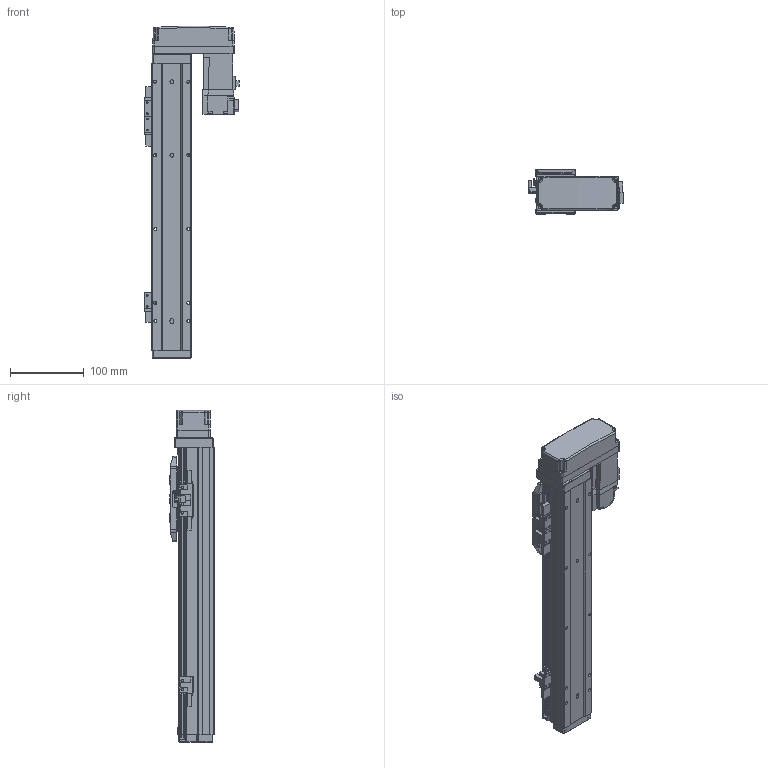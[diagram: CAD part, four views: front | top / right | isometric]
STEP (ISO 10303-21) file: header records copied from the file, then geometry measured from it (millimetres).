
FILE_DESCRIPTION (( 'STEP AP214' ), '1' );
FILE_NAME ('N_GRH5-250-BL-M10.step', '2025-03-14T09:45:22', ( '' ), ( '' ), 'SwSTEP 2.0', 'SolidWorks 2016', '' );
FILE_SCHEMA (( 'AUTOMOTIVE_DESIGN' ));
Length unit declared in the file: millimetre
Products named in the file (5): N_GRH5-GY-011^N_GRH5-250-BL-M10; HF-KP13_100W_Motor^N_GRH5-250-BL-M10; N_GRH5-GY-004^N_GRH5-250-BL-M10; N_GRH5-250-BL-M10; N_GRH5-BL-008^N_GRH5-250-BL-M10
Assembly tree (4 placements, depth 2):
  N_GRH5-250-BL-M10
    N_GRH5-GY-011^N_GRH5-250-BL-M10
    N_GRH5-GY-004^N_GRH5-250-BL-M10
    HF-KP13_100W_Motor^N_GRH5-250-BL-M10
    N_GRH5-BL-008^N_GRH5-250-BL-M10
Bounding box: 128.85 x 60 x 450.5 mm (x, y, z)
Volume: 1044638.5 mm3; surface area: 249674.6 mm2
Topology: 4 solids, 5 shells, 904 faces, 2328 edges, 1481 vertices
Faces by surface type: plane 551, cylinder 298, cone 30, bspline 15, sphere 10
Entity records: 34565 total; most frequent: CARTESIAN_POINT 5551, DIRECTION 4653, ORIENTED_EDGE 4608, EDGE_CURVE 2304, VECTOR 1615, LINE 1615, AXIS2_PLACEMENT_3D 1519, VERTEX_POINT 1479
